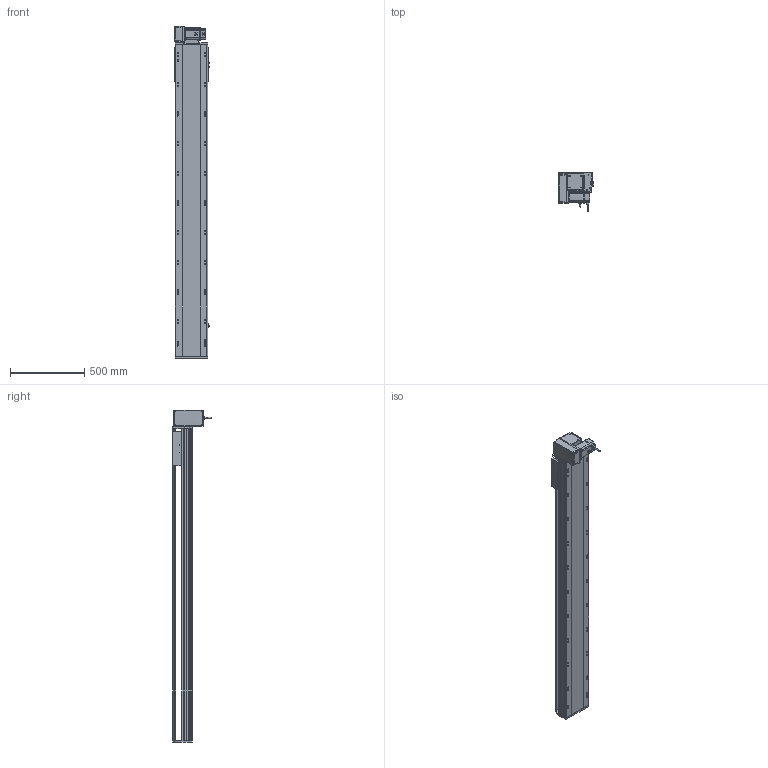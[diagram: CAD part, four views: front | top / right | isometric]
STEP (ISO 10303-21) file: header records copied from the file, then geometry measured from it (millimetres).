
FILE_DESCRIPTION (( 'STEP AP214' ), '1' );
FILE_NAME ('RTB22S-XX-1750-LM-M75-C4.STEP', '2025-12-12T03:53:39', ( '' ), ( '' ), 'SwSTEP 2.0', 'SolidWorks 2018', '' );
FILE_SCHEMA (( 'AUTOMOTIVE_DESIGN' ));
Length unit declared in the file: millimetre
Products named in the file (14): RTB22S-GY-018P^RMP22S-LM-々湍釱蚾饜_RTB22S-XX-XX-LM-M75-C4; RTB22S-GY-014--々湍釱^RMP22S-LM-々湍釱蚾饜_RTB22S-XX-XX-LM-M75-C4; RTB22S-GY-001耜裔^RTB22S-XX-XX-LM-M75-C4; RTB22S-GY-005P^RMP22S-LM-々湍釱蚾饜_RTB22S-XX-XX-LM-M75-C4; RTB22S-GY-017P^RMP22S-LM-々湍釱蚾饜_RTB22S-XX-XX-LM-M75-C4; RMP22S-LM-々湍釱蚾饜^RTB22S-XX-XX-LM-M75-C4; RTH22-GY-013外置感应片^RTB22S-XX-XX-LM-M75-C4; RTB22S-XX-1750-LM-M75-C4; RTB22S-L-004賑釱^RTB22S-XX-XX-LM-M75-C4; 750W萇儂^RTB22S-XX-XX-LM-M75-C4; RTB22S-L-011菁釱^RTB22S-XX-XX-LM-M75-C4; RTB22S-GY-008-M75--萇儂啣^RMP22S-LM-々湍釱蚾饜_RTB22S-XX-XX-LM-M75-C4; RTB22S-GY-007奻裔^RTB22S-XX-XX-LM-M75-C4; OMRON EE-SX672 传感器^RTB22S-XX-XX-LM-M75-C4
Assembly tree (16 placements, depth 3):
  RTB22S-XX-1750-LM-M75-C4
    RTB22S-L-011菁釱^RTB22S-XX-XX-LM-M75-C4
    RTB22S-GY-001耜裔^RTB22S-XX-XX-LM-M75-C4
    750W萇儂^RTB22S-XX-XX-LM-M75-C4
    RTB22S-GY-007奻裔^RTB22S-XX-XX-LM-M75-C4
    RTB22S-L-004賑釱^RTB22S-XX-XX-LM-M75-C4
    RTH22-GY-013外置感应片^RTB22S-XX-XX-LM-M75-C4
    OMRON EE-SX672 传感器^RTB22S-XX-XX-LM-M75-C4  x3
    RMP22S-LM-々湍釱蚾饜^RTB22S-XX-XX-LM-M75-C4
      RTB22S-GY-014--々湍釱^RMP22S-LM-々湍釱蚾饜_RTB22S-XX-XX-LM-M75-C4
      RTB22S-GY-017P^RMP22S-LM-々湍釱蚾饜_RTB22S-XX-XX-LM-M75-C4  x2
      RTB22S-GY-005P^RMP22S-LM-々湍釱蚾饜_RTB22S-XX-XX-LM-M75-C4
      RTB22S-GY-008-M75--萇儂啣^RMP22S-LM-々湍釱蚾饜_RTB22S-XX-XX-LM-M75-C4
      RTB22S-GY-018P^RMP22S-LM-々湍釱蚾饜_RTB22S-XX-XX-LM-M75-C4
Bounding box: 238.5 x 264.7 x 2237.5 mm (x, y, z)
Volume: 30027889.6 mm3; surface area: 3089696.5 mm2
Topology: 15 solids, 15 shells, 2037 faces, 5536 edges, 3542 vertices
Faces by surface type: plane 921, cylinder 658, bspline 296, cone 150, sphere 8, torus 4
Entity records: 54742 total; most frequent: CARTESIAN_POINT 15616, ORIENTED_EDGE 7836, DIRECTION 7592, EDGE_CURVE 3918, AXIS2_PLACEMENT_3D 2698, VERTEX_POINT 2546, VECTOR 2196, LINE 2196
